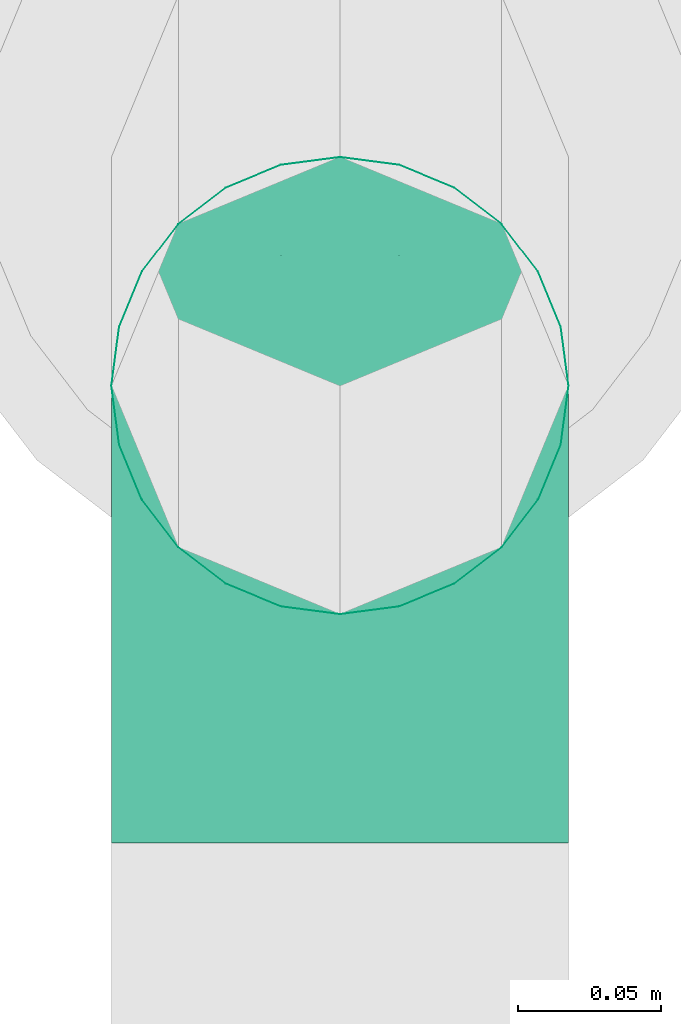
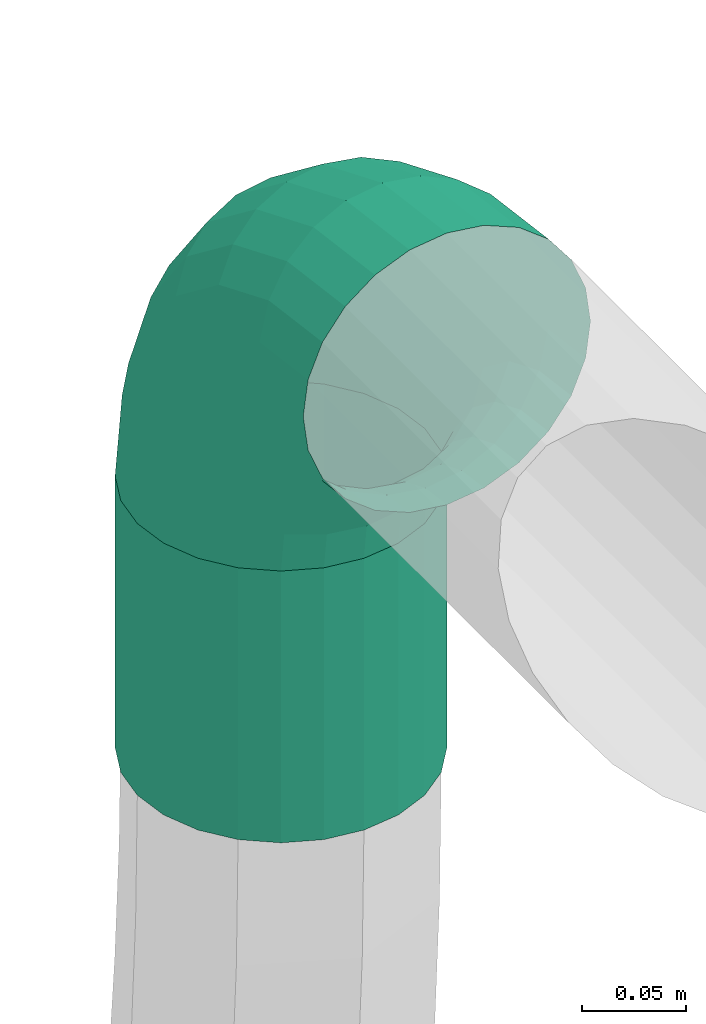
# One storey, part 170 of 374: 1 flow fitting, 1 flow segment.
"""IFC2X3 building model written with IfcOpenShell, lengths in metres."""

from ifc_helpers import new_model, si_unit, direction, origin, place, context, subcontext, project, spatial, open_shell, surface_model, source, transform, mapped, element, save


model = new_model("IFC2X3")

# Units and contexts
model_context = context("Model", 3, precision=1e-05, world=origin(), true_north=direction((-0.4480736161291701, 0.8939966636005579)))
body_context = subcontext(model_context, "Body", "Model", "MODEL_VIEW")
ifc_project = project(units=[si_unit("LENGTHUNIT", "METRE"), si_unit("AREAUNIT", "SQUARE_METRE"), si_unit("VOLUMEUNIT", "CUBIC_METRE"), si_unit("PLANEANGLEUNIT", "RADIAN"), si_unit("THERMODYNAMICTEMPERATUREUNIT", "KELVIN"), si_unit("MASSUNIT", "GRAM", prefix="KILO"), si_unit("TIMEUNIT", "SECOND")], contexts=[model_context])

# Site, building, storey
site_placement = place(None, origin())
site = spatial("IfcSite", under=ifc_project, at=site_placement, Name="Site 1", CompositionType="ELEMENT")
building_placement = place(site_placement, origin())
building = spatial("IfcBuilding", under=site, at=building_placement, Name="Undefined", CompositionType="ELEMENT")
storey_placement = place(building_placement, origin())
storey = spatial("IfcBuildingStorey", under=building, at=storey_placement, Name="Rez de chauss\x8ee", CompositionType="ELEMENT", Elevation=0.0)

# Flow fitting
shared_shape_1 = source(origin(), body_context, "Body", "SurfaceModel", [
    surface_model("IfcFaceBasedSurfaceModel", [(0.06265257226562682, -8.8817842e-16, 0.0), (0.062296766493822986, 0.02088115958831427, -7.105427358e-15), (0.0003558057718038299, 0.020881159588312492, 7.105427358e-15), (0.0, 0.0, 0.0), (-0.059474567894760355, 0.022956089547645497, -0.015896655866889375), (-0.06051773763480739, 0.002098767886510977, -0.01607928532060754), (-0.11311701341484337, 0.02696454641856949, -0.04660663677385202), (-0.11477645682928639, 0.006153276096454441, -0.04714207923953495), (-0.15691588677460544, 0.0326333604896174, -0.09003710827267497), (-0.15907851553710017, 0.01188721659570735, -0.09107150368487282), (-0.18788636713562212, 0.03957621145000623, -0.14322835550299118), (-0.1904048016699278, 0.01890983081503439, -0.14487384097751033), (-0.2039178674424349, 0.04731995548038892, -0.20255548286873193), (-0.20662048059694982, 0.026742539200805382, -0.20488255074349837), (0.061253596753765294, 0.04103889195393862, -0.0053597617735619), (0.0013989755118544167, 0.04103889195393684, -0.005359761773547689), (-0.05641614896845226, 0.04304393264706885, -0.02072097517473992), (-0.10825177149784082, 0.04691737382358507, -0.050396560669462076), (-0.15057538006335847, 0.05239524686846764, -0.09236417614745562), (-0.18050269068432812, 0.05910424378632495, -0.14376379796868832), (-0.19599420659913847, 0.06658715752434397, -0.20109262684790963), (0.05959415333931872, 0.05909948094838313, -0.01571402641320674), (0.003058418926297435, 0.05909948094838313, -0.01571402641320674), (-0.05155090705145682, 0.06099334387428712, -0.030223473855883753), (-0.10051228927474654, 0.06465200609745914, -0.058253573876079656), (-0.1404890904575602, 0.0698261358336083, -0.09789412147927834), (-0.16875695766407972, 0.0761631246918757, -0.14644367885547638), (-0.18338948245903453, 0.08323111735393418, -0.2005936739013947), (0.057431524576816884, 0.07383212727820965, -0.030357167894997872), (0.005221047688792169, 0.07383212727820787, -0.03035716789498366), (-0.0452104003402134, 0.07558110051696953, -0.04375657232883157), (-0.09042599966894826, 0.07895985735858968, -0.06964223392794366), (-0.12734438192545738, 0.08373814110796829, -0.10625008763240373), (-0.15344962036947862, 0.08959031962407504, -0.15108536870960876), (-0.16696268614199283, 0.0961175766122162, -0.20109262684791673), (0.054913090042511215, 0.0842328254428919, -0.048291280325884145), (0.007739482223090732, 0.08423282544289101, -0.04829128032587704), (-0.037826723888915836, 0.08581307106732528, -0.06039801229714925), (-0.07868026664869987, 0.08886587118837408, -0.08378642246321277), (-0.11203704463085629, 0.09318318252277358, -0.11686262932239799), (-0.13562384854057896, 0.09847078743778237, -0.1573725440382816), (-0.14783327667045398, 0.10436834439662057, -0.20255548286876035), (0.05221047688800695, 0.0895927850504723, -0.06829418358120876), (0.010442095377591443, 0.08959278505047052, -0.06829418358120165), (-0.029903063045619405, 0.09099196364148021, -0.07901370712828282), (-0.06607554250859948, 0.09369496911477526, -0.0997222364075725), (-0.0956102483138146, 0.0975175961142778, -0.12900851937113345), (-0.11649443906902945, 0.10219933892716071, -0.16487674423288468), (-0.12730489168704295, 0.1074211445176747, -0.2048825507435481), (0.04950786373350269, 0.08954673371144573, -0.08900271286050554), (0.013144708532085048, 0.08954673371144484, -0.08900271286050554), (-0.02197940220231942, 0.09076484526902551, -0.09833502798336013), (-0.05347081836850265, 0.09311805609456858, -0.11636367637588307), (-0.0791834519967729, 0.09644599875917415, -0.14186003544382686), (-0.09736502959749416, 0.10052187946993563, -0.17308657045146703), (-0.10677650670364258, 0.1050679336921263, -0.20791524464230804), (0.04698942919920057, 0.08409780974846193, -0.10900561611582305), (0.015663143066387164, 0.08409780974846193, -0.10900561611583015), (-0.014595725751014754, 0.08514719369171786, -0.11704525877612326), (-0.0417250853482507, 0.0871744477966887, -0.13257665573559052), (-0.06387611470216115, 0.09004141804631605, -0.15454136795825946), (-0.07953925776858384, 0.09355272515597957, -0.1814425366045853), (-0.08764709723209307, 0.09746907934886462, -0.21144689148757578), (0.04482680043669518, 0.0736173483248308, -0.12693972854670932), (0.017825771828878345, 0.0736173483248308, -0.12693972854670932), (-0.008255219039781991, 0.07452184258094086, -0.13386932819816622), (-0.03163879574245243, 0.0762691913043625, -0.14725628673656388), (-0.050731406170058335, 0.07874031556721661, -0.1661883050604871), (-0.06423192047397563, 0.08176681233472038, -0.18937519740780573), (-0.07122030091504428, 0.08514243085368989, -0.21523681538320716), (0.04316735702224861, 0.058819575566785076, -0.14158287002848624), (0.019485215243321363, 0.058819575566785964, -0.14158287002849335), (-0.0033899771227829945, 0.05961289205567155, -0.14766070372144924), (-0.02389931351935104, 0.06114546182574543, -0.15940217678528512), (-0.04064511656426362, 0.06331284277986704, -0.17600712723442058), (-0.052486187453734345, 0.06596733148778, -0.19634395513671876), (-0.05861557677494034, 0.06892802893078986, -0.2190267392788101), (0.04212418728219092, 0.040712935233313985, -0.15193713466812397), (0.020528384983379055, 0.040712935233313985, -0.15193713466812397), (-0.0003315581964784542, 0.041436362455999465, -0.15747952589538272), (-0.019034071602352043, 0.04283391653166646, -0.16818660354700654), (-0.03430460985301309, 0.04481035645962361, -0.1833286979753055), (-0.04510251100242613, 0.047230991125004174, -0.20187390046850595), (-0.05069191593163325, 0.04993085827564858, -0.22255838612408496), (0.04176838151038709, 0.02053136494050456, -0.15729689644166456), (0.020884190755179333, 0.02053136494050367, -0.15729689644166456), (0.0007116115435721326, 0.021230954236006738, -0.16265665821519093), (-0.017374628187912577, 0.022582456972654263, -0.17301092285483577), (-0.03214198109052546, 0.024493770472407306, -0.1876540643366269), (-0.042584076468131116, 0.026834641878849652, -0.20558817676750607), (-0.04798930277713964, 0.02944554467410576, -0.22559108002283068), (0.04212418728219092, -0.0003497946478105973, -0.15729689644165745), (0.020528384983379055, -0.0003497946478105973, -0.15729689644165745), (-0.0003315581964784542, 0.00037363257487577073, -0.1628392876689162), (-0.019034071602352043, 0.0017711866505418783, -0.17354636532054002), (-0.03430460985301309, 0.0037476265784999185, -0.18868845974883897), (-0.04510251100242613, 0.00616826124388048, -0.20723366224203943), (-0.05069191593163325, 0.008868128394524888, -0.22791814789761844), (0.04316735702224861, -0.020507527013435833, -0.15193713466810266), (0.019485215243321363, -0.020507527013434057, -0.15193713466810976), (-0.0033899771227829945, -0.019714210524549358, -0.15801496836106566), (-0.02389931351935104, -0.01818164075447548, -0.16975644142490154), (-0.04064511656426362, -0.01601425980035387, -0.186361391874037), (-0.052486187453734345, -0.013359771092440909, -0.20669821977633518), (-0.05861557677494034, -0.010399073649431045, -0.22938100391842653), (0.04482680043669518, -0.03856811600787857, -0.1415828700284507), (0.017825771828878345, -0.03856811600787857, -0.1415828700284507), (-0.008255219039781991, -0.03766362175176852, -0.1485124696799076), (-0.03163879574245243, -0.03591627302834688, -0.16189942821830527), (-0.050731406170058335, -0.03344514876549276, -0.1808314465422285), (-0.06423192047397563, -0.030418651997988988, -0.20401833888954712), (-0.07122030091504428, -0.027043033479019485, -0.22987995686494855), (0.04698942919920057, -0.05330076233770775, -0.12693972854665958), (0.015663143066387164, -0.05330076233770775, -0.12693972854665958), (-0.014595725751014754, -0.05225137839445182, -0.1349793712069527), (-0.0417250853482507, -0.05022412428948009, -0.15051076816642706), (-0.06387611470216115, -0.047357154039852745, -0.172475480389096), (-0.07953925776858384, -0.043845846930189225, -0.19937664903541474), (-0.08764709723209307, -0.03992949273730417, -0.2293810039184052), (0.04950786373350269, -0.06370146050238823, -0.10900561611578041), (0.013144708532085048, -0.06370146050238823, -0.10900561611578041), (-0.02197940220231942, -0.06248334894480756, -0.11833793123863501), (-0.05347081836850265, -0.06013013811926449, -0.13636657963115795), (-0.0791834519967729, -0.05680219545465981, -0.16186293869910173), (-0.09736502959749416, -0.05272631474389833, -0.1930894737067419), (-0.10677650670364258, -0.04818026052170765, -0.2279181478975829), (0.05221047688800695, -0.06906142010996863, -0.08900271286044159), (0.010442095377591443, -0.06906142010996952, -0.08900271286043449), (-0.029903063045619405, -0.06766224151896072, -0.09972223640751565), (-0.06607554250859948, -0.06495923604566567, -0.12043076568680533), (-0.0956102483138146, -0.06113660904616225, -0.14971704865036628), (-0.11649443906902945, -0.05645486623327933, -0.1855852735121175), (-0.12730489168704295, -0.05123306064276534, -0.22559108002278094), (0.054913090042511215, -0.06901536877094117, -0.06829418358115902), (0.007739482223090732, -0.06901536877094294, -0.06829418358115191), (-0.037826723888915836, -0.06743512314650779, -0.08040091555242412), (-0.07868026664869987, -0.06438232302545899, -0.10378932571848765), (-0.11203704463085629, -0.06006501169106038, -0.13686553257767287), (-0.13562384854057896, -0.0547774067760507, -0.17737544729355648), (-0.14783327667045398, -0.04887984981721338, -0.22255838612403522), (0.057431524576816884, -0.06356644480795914, -0.0482912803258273), (0.005221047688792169, -0.06356644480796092, -0.04829128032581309), (-0.0452104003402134, -0.061817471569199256, -0.0616906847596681), (-0.09042599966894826, -0.05843871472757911, -0.0875763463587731), (-0.12734438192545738, -0.05366043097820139, -0.12418420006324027), (-0.15344962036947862, -0.04780825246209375, -0.1690194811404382), (-0.16696268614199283, -0.041280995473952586, -0.21902673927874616), (0.05959415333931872, -0.05308598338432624, -0.030357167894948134), (0.003058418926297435, -0.05308598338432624, -0.030357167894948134), (-0.05155090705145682, -0.05119212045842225, -0.04486661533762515), (-0.10051228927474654, -0.04753345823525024, -0.07289671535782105), (-0.1404890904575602, -0.04235932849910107, -0.11253726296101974), (-0.16875695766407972, -0.03602233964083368, -0.16108682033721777), (-0.18338948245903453, -0.02895434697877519, -0.2152368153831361), (0.061253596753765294, -0.03828821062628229, -0.015714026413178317), (0.0013989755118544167, -0.03828821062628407, -0.015714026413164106), (-0.05641614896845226, -0.03628316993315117, -0.031075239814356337), (-0.10825177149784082, -0.03240972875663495, -0.06075082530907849), (-0.15057538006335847, -0.026931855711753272, -0.10271844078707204), (-0.18050269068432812, -0.02022285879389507, -0.15411806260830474), (-0.19599420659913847, -0.012739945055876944, -0.21144689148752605), (0.062296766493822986, -0.020181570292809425, -0.005359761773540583), (0.0003558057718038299, -0.020181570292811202, -0.0053597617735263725), (-0.059474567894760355, -0.018106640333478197, -0.021256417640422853), (-0.11311701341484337, -0.014098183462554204, -0.051966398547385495), (-0.15691588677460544, -0.00842936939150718, -0.09539687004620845), (-0.18788636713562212, -0.0014865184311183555, -0.14858811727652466), (-0.2039178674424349, 0.006257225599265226, -0.2079152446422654)], [open_shell([[[0, 1, 2, 3]], [[3, 2, 4, 5]], [[5, 4, 6, 7]], [[7, 6, 8, 9]], [[9, 8, 10, 11]], [[11, 10, 12, 13]], [[1, 14, 15, 2]], [[2, 15, 16, 4]], [[4, 16, 17, 6]], [[6, 17, 18, 8]], [[8, 18, 19, 10]], [[10, 19, 20, 12]], [[14, 21, 22, 15]], [[15, 22, 23, 16]], [[16, 23, 24, 17]], [[17, 24, 25, 18]], [[18, 25, 26, 19]], [[19, 26, 27, 20]], [[21, 28, 29, 22]], [[22, 29, 30, 23]], [[23, 30, 31, 24]], [[24, 31, 32, 25]], [[25, 32, 33, 26]], [[26, 33, 34, 27]], [[28, 35, 36, 29]], [[29, 36, 37, 30]], [[30, 37, 38, 31]], [[31, 38, 39, 32]], [[32, 39, 40, 33]], [[33, 40, 41, 34]], [[35, 42, 43, 36]], [[36, 43, 44, 37]], [[37, 44, 45, 38]], [[38, 45, 46, 39]], [[39, 46, 47, 40]], [[40, 47, 48, 41]], [[42, 49, 50, 43]], [[43, 50, 51, 44]], [[44, 51, 52, 45]], [[45, 52, 53, 46]], [[46, 53, 54, 47]], [[47, 54, 55, 48]], [[49, 56, 57, 50]], [[50, 57, 58, 51]], [[51, 58, 59, 52]], [[52, 59, 60, 53]], [[53, 60, 61, 54]], [[54, 61, 62, 55]], [[56, 63, 64, 57]], [[57, 64, 65, 58]], [[58, 65, 66, 59]], [[59, 66, 67, 60]], [[60, 67, 68, 61]], [[61, 68, 69, 62]], [[63, 70, 71, 64]], [[64, 71, 72, 65]], [[65, 72, 73, 66]], [[66, 73, 74, 67]], [[67, 74, 75, 68]], [[68, 75, 76, 69]], [[70, 77, 78, 71]], [[71, 78, 79, 72]], [[72, 79, 80, 73]], [[73, 80, 81, 74]], [[74, 81, 82, 75]], [[75, 82, 83, 76]], [[77, 84, 85, 78]], [[78, 85, 86, 79]], [[79, 86, 87, 80]], [[80, 87, 88, 81]], [[81, 88, 89, 82]], [[82, 89, 90, 83]], [[84, 91, 92, 85]], [[85, 92, 93, 86]], [[86, 93, 94, 87]], [[87, 94, 95, 88]], [[88, 95, 96, 89]], [[89, 96, 97, 90]], [[91, 98, 99, 92]], [[92, 99, 100, 93]], [[93, 100, 101, 94]], [[94, 101, 102, 95]], [[95, 102, 103, 96]], [[96, 103, 104, 97]], [[98, 105, 106, 99]], [[99, 106, 107, 100]], [[100, 107, 108, 101]], [[101, 108, 109, 102]], [[102, 109, 110, 103]], [[103, 110, 111, 104]], [[105, 112, 113, 106]], [[106, 113, 114, 107]], [[107, 114, 115, 108]], [[108, 115, 116, 109]], [[109, 116, 117, 110]], [[110, 117, 118, 111]], [[112, 119, 120, 113]], [[113, 120, 121, 114]], [[114, 121, 122, 115]], [[115, 122, 123, 116]], [[116, 123, 124, 117]], [[117, 124, 125, 118]], [[119, 126, 127, 120]], [[120, 127, 128, 121]], [[121, 128, 129, 122]], [[122, 129, 130, 123]], [[123, 130, 131, 124]], [[124, 131, 132, 125]], [[126, 133, 134, 127]], [[127, 134, 135, 128]], [[128, 135, 136, 129]], [[129, 136, 137, 130]], [[130, 137, 138, 131]], [[131, 138, 139, 132]], [[133, 140, 141, 134]], [[134, 141, 142, 135]], [[135, 142, 143, 136]], [[136, 143, 144, 137]], [[137, 144, 145, 138]], [[138, 145, 146, 139]], [[140, 147, 148, 141]], [[141, 148, 149, 142]], [[142, 149, 150, 143]], [[143, 150, 151, 144]], [[144, 151, 152, 145]], [[145, 152, 153, 146]], [[147, 154, 155, 148]], [[148, 155, 156, 149]], [[149, 156, 157, 150]], [[150, 157, 158, 151]], [[151, 158, 159, 152]], [[152, 159, 160, 153]], [[154, 161, 162, 155]], [[155, 162, 163, 156]], [[156, 163, 164, 157]], [[157, 164, 165, 158]], [[158, 165, 166, 159]], [[159, 166, 167, 160]], [[161, 0, 3, 162]], [[162, 3, 5, 163]], [[163, 5, 7, 164]], [[164, 7, 9, 165]], [[165, 9, 11, 166]], [[166, 11, 13, 167]]])]),
])
flow_fitting_placement = place(storey_placement, origin())
element("IfcFlowFitting", 1, at=flow_fitting_placement, inside=storey, Name="Coude", ObjectType="Coude", context=body_context, shape_type="MappedRepresentation", body=[
    mapped(shared_shape_1, transform((56.2892401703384, 16.946821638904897, 3.7021165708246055), x_axis=(0.0, 0.13052619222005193, -0.9914448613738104), y_axis=(-0.9915887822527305, -0.12832103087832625, -0.016893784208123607), z_axis=(-0.12942830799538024, 0.9831056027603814, 0.12942830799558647))),
])

# Flow segment
shared_shape_2 = source(origin(), body_context, "Body", "SurfaceModel", [
    surface_model("IfcFaceBasedSurfaceModel", [(0.0, 0.020884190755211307, 0.0), (0.0, 0.0, 0.0), (0.16000000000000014, 0.0, -4.4408921e-16), (0.16000000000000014, 0.0208841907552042, -4.4408921e-16), (0.0, -0.020172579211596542, -0.005405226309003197), (0.16000000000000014, -0.020172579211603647, -0.005405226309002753), (0.0, -0.03825881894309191, -0.015847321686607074), (0.16000000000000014, -0.03825881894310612, -0.015847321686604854), (0.0, -0.05302617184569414, -0.0306146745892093), (0.16000000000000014, -0.05302617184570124, -0.03061467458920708), (0.0, -0.06346826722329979, -0.04870091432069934), (0.16000000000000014, -0.0634682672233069, -0.04870091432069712), (0.0, -0.06887349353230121, -0.06887349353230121), (0.16000000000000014, -0.06887349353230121, -0.06887349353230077), (0.0, -0.06887349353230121, -0.08975768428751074), (0.16000000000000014, -0.06887349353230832, -0.08975768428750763), (0.0, -0.06346826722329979, -0.10993026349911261), (0.16000000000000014, -0.0634682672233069, -0.10993026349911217), (0.0, -0.05302617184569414, -0.12801650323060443), (0.16000000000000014, -0.05302617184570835, -0.1280165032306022), (0.0, -0.038258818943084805, -0.14278385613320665), (0.16000000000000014, -0.03825881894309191, -0.14278385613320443), (0.0, -0.020172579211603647, -0.15322595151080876), (0.16000000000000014, -0.020172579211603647, -0.1532259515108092), (0.0, 7.105427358e-15, -0.15863117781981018), (0.16000000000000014, -7.105427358e-15, -0.15863117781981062), (0.0, 0.020884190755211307, -0.15863117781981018), (0.16000000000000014, 0.0208841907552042, -0.15863117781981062), (0.0, 0.04105676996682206, -0.15322595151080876), (0.16000000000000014, 0.04105676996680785, -0.1532259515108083), (0.0, 0.05914300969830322, -0.1427838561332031), (0.16000000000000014, 0.05914300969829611, -0.14278385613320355), (0.0, 0.07391036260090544, -0.12801650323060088), (0.16000000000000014, 0.07391036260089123, -0.1280165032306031), (0.0, 0.0843524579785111, -0.10993026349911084), (0.16000000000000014, 0.08435245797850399, -0.10993026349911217), (0.0, 0.08975768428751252, -0.08975768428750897), (0.16000000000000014, 0.08975768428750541, -0.08975768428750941), (0.0, 0.08975768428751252, -0.06887349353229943), (0.16000000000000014, 0.08975768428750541, -0.06887349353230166), (0.0, 0.0843524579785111, -0.048700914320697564), (0.16000000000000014, 0.08435245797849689, -0.04870091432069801), (0.0, 0.07391036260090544, -0.030614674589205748), (0.16000000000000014, 0.07391036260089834, -0.03061467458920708), (0.0, 0.05914300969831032, -0.015847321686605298), (0.16000000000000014, 0.05914300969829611, -0.01584732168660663), (0.0, 0.04105676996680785, -0.005405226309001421), (0.16000000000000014, 0.04105676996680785, -0.005405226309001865)], [open_shell([[[0, 1, 2, 3]], [[1, 4, 5, 2]], [[4, 6, 7, 5]], [[6, 8, 9, 7]], [[8, 10, 11, 9]], [[10, 12, 13, 11]], [[12, 14, 15, 13]], [[14, 16, 17, 15]], [[16, 18, 19, 17]], [[18, 20, 21, 19]], [[20, 22, 23, 21]], [[22, 24, 25, 23]], [[24, 26, 27, 25]], [[26, 28, 29, 27]], [[28, 30, 31, 29]], [[30, 32, 33, 31]], [[32, 34, 35, 33]], [[34, 36, 37, 35]], [[36, 38, 39, 37]], [[38, 40, 41, 39]], [[40, 42, 43, 41]], [[42, 44, 45, 43]], [[44, 46, 47, 45]], [[46, 0, 3, 47]]])]),
])
flow_segment_placement = place(storey_placement, origin())
element("IfcFlowSegment", 2, at=flow_segment_placement, inside=storey, Name="Tube", ObjectType="Tube", context=body_context, shape_type="MappedRepresentation", body=[
    mapped(shared_shape_2, transform((56.3099456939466, 16.797725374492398, 3.4800000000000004), x_axis=(0.0, 0.0, 1.0), y_axis=(-0.9914448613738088, -0.13052619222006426, 0.0), z_axis=(0.13052619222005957, -0.9914448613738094, 0.0))),
])

save(model, "model.ifc")
